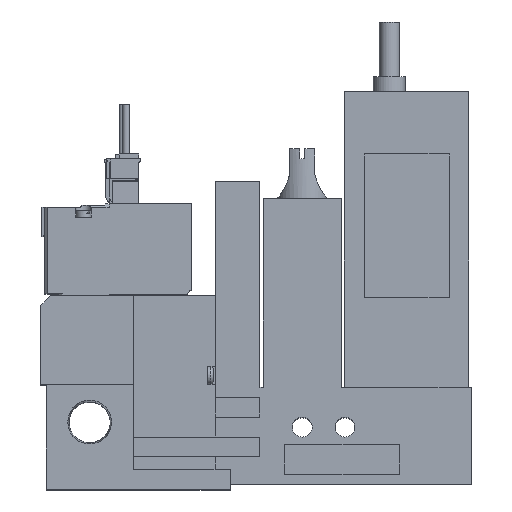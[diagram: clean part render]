
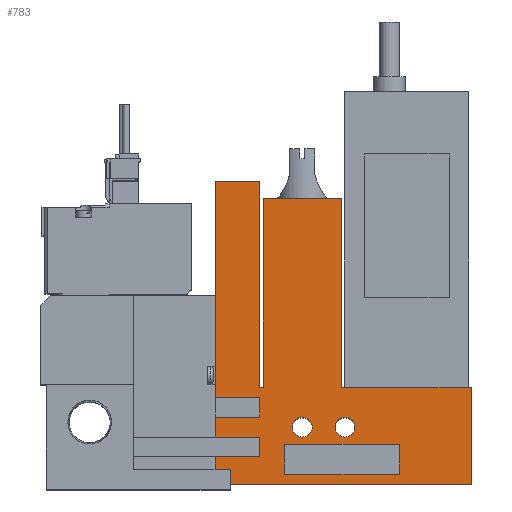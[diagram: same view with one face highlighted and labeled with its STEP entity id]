
A CAD part, top view. The second image highlights one B-rep face of the part: STEP entity #783.
In plain terms, the highlighted planar face has unit normal (0, 0, 1).
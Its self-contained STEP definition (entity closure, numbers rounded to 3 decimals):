
#783=ADVANCED_FACE('',(#1640,#1641,#1642,#1643),#1644,.T.);
#1640=FACE_OUTER_BOUND('',#2678,.T.);
#1641=FACE_BOUND('',#2679,.T.);
#1642=FACE_BOUND('',#2680,.T.);
#1643=FACE_BOUND('',#2681,.T.);
#1644=PLANE('',#2682);
#2678=EDGE_LOOP('',(#5737,#5738,#5739,#5740,#5741,#5742,#5743,#5744,#5745,#5746,#5747,#5748,#5749,#5750,#5751,#5752,#5753,#5754));
#2679=EDGE_LOOP('',(#5755,#5756,#5757,#5758));
#2680=EDGE_LOOP('',(#5759));
#2681=EDGE_LOOP('',(#5760));
#2682=AXIS2_PLACEMENT_3D('',#5761,#5762,#5763);
#5737=ORIENTED_EDGE('',*,*,#7269,.T.);
#5738=ORIENTED_EDGE('',*,*,#7371,.T.);
#5739=ORIENTED_EDGE('',*,*,#7367,.T.);
#5740=ORIENTED_EDGE('',*,*,#7369,.T.);
#5741=ORIENTED_EDGE('',*,*,#7229,.T.);
#5742=ORIENTED_EDGE('',*,*,#7412,.T.);
#5743=ORIENTED_EDGE('',*,*,#7286,.T.);
#5744=ORIENTED_EDGE('',*,*,#7410,.T.);
#5745=ORIENTED_EDGE('',*,*,#7226,.T.);
#5746=ORIENTED_EDGE('',*,*,#7416,.T.);
#5747=ORIENTED_EDGE('',*,*,#7402,.T.);
#5748=ORIENTED_EDGE('',*,*,#7399,.T.);
#5749=ORIENTED_EDGE('',*,*,#7240,.T.);
#5750=ORIENTED_EDGE('',*,*,#7397,.T.);
#5751=ORIENTED_EDGE('',*,*,#7251,.T.);
#5752=ORIENTED_EDGE('',*,*,#7395,.T.);
#5753=ORIENTED_EDGE('',*,*,#7392,.T.);
#5754=ORIENTED_EDGE('',*,*,#7389,.T.);
#5755=ORIENTED_EDGE('',*,*,#7382,.T.);
#5756=ORIENTED_EDGE('',*,*,#7383,.T.);
#5757=ORIENTED_EDGE('',*,*,#7378,.T.);
#5758=ORIENTED_EDGE('',*,*,#7380,.T.);
#5759=ORIENTED_EDGE('',*,*,#7357,.T.);
#5760=ORIENTED_EDGE('',*,*,#7355,.T.);
#5761=CARTESIAN_POINT('',(0.0,0.0,10.0));
#5762=DIRECTION('',(0.0,0.0,1.0));
#5763=DIRECTION('',(1.0,0.0,0.0));
#7226=EDGE_CURVE('',#8813,#8817,#8819,.T.);
#7229=EDGE_CURVE('',#8825,#8823,#8826,.T.);
#7240=EDGE_CURVE('',#8846,#8844,#8847,.T.);
#7251=EDGE_CURVE('',#8867,#8865,#8868,.T.);
#7269=EDGE_CURVE('',#8903,#8901,#8904,.T.);
#7286=EDGE_CURVE('',#8928,#8933,#8935,.T.);
#7355=EDGE_CURVE('',#9043,#9043,#9044,.T.);
#7357=EDGE_CURVE('',#9047,#9047,#9048,.T.);
#7367=EDGE_CURVE('',#9062,#9064,#9066,.T.);
#7369=EDGE_CURVE('',#9064,#8825,#9068,.T.);
#7371=EDGE_CURVE('',#8901,#9062,#9070,.T.);
#7378=EDGE_CURVE('',#9079,#9081,#9083,.T.);
#7380=EDGE_CURVE('',#9081,#9084,#9086,.T.);
#7382=EDGE_CURVE('',#9084,#9087,#9089,.T.);
#7383=EDGE_CURVE('',#9087,#9079,#9090,.T.);
#7389=EDGE_CURVE('',#9101,#8903,#9102,.T.);
#7392=EDGE_CURVE('',#9106,#9101,#9107,.T.);
#7395=EDGE_CURVE('',#8865,#9106,#9110,.T.);
#7397=EDGE_CURVE('',#8844,#8867,#9112,.T.);
#7399=EDGE_CURVE('',#9115,#8846,#9116,.T.);
#7402=EDGE_CURVE('',#9120,#9115,#9121,.T.);
#7410=EDGE_CURVE('',#8933,#8813,#9131,.T.);
#7412=EDGE_CURVE('',#8823,#8928,#9133,.T.);
#7416=EDGE_CURVE('',#8817,#9120,#9138,.T.);
#8813=VERTEX_POINT('',#11356);
#8817=VERTEX_POINT('',#11362);
#8819=LINE('',#11365,#11366);
#8823=VERTEX_POINT('',#11371);
#8825=VERTEX_POINT('',#11374);
#8826=LINE('',#11375,#11376);
#8844=VERTEX_POINT('',#11401);
#8846=VERTEX_POINT('',#11404);
#8847=LINE('',#11405,#11406);
#8865=VERTEX_POINT('',#11430);
#8867=VERTEX_POINT('',#11433);
#8868=LINE('',#11434,#11435);
#8901=VERTEX_POINT('',#11482);
#8903=VERTEX_POINT('',#11485);
#8904=LINE('',#11486,#11487);
#8928=VERTEX_POINT('',#11523);
#8933=VERTEX_POINT('',#11530);
#8935=LINE('',#11533,#11534);
#9043=VERTEX_POINT('',#11719);
#9044=CIRCLE('',#11720,2.0);
#9047=VERTEX_POINT('',#11723);
#9048=CIRCLE('',#11724,2.0);
#9062=VERTEX_POINT('',#11745);
#9064=VERTEX_POINT('',#11748);
#9066=LINE('',#11751,#11752);
#9068=LINE('',#11755,#11756);
#9070=LINE('',#11759,#11760);
#9079=VERTEX_POINT('',#11773);
#9081=VERTEX_POINT('',#11776);
#9083=LINE('',#11779,#11780);
#9084=VERTEX_POINT('',#11781);
#9086=LINE('',#11784,#11785);
#9087=VERTEX_POINT('',#11786);
#9089=LINE('',#11789,#11790);
#9090=LINE('',#11791,#11792);
#9101=VERTEX_POINT('',#11808);
#9102=LINE('',#11809,#11810);
#9106=VERTEX_POINT('',#11816);
#9107=LINE('',#11817,#11818);
#9110=LINE('',#11823,#11824);
#9112=LINE('',#11827,#11828);
#9115=VERTEX_POINT('',#11832);
#9116=LINE('',#11833,#11834);
#9120=VERTEX_POINT('',#11840);
#9121=LINE('',#11841,#11842);
#9131=LINE('',#11859,#11860);
#9133=LINE('',#11863,#11864);
#9138=LINE('',#11872,#11873);
#11356=CARTESIAN_POINT('',(35.1,5.5,10.0));
#11362=CARTESIAN_POINT('',(35.1,0.0,10.0));
#11365=CARTESIAN_POINT('',(35.1,0.0,10.0));
#11366=VECTOR('',#13354,1.0);
#11371=CARTESIAN_POINT('',(35.1,9.5,10.0));
#11374=CARTESIAN_POINT('',(35.1,13.5,10.0));
#11375=CARTESIAN_POINT('',(35.1,0.0,10.0));
#11376=VECTOR('',#13357,1.0);
#11401=CARTESIAN_POINT('',(60.45,57.5,10.0));
#11404=CARTESIAN_POINT('',(60.45,19.5,10.0));
#11405=CARTESIAN_POINT('',(60.45,19.5,10.0));
#11406=VECTOR('',#13372,1.0);
#11430=CARTESIAN_POINT('',(44.75,19.5,10.0));
#11433=CARTESIAN_POINT('',(44.75,57.5,10.0));
#11434=CARTESIAN_POINT('',(44.75,57.5,10.0));
#11435=VECTOR('',#13389,1.0);
#11482=CARTESIAN_POINT('',(35.1,17.5,10.0));
#11485=CARTESIAN_POINT('',(35.1,61.0,10.0));
#11486=CARTESIAN_POINT('',(35.1,61.0,10.0));
#11487=VECTOR('',#13411,1.0);
#11523=CARTESIAN_POINT('',(44.1,9.5,10.0));
#11530=CARTESIAN_POINT('',(44.1,5.5,10.0));
#11533=CARTESIAN_POINT('',(44.1,0.0,10.0));
#11534=VECTOR('',#13430,1.0);
#11719=CARTESIAN_POINT('',(63.2,11.5,10.0));
#11720=AXIS2_PLACEMENT_3D('',#13521,#13522,#13523);
#11723=CARTESIAN_POINT('',(54.6,11.5,10.0));
#11724=AXIS2_PLACEMENT_3D('',#13527,#13528,#13529);
#11745=CARTESIAN_POINT('',(44.1,17.5,10.0));
#11748=CARTESIAN_POINT('',(44.1,13.5,10.0));
#11751=CARTESIAN_POINT('',(44.1,0.0,10.0));
#11752=VECTOR('',#13539,1.0);
#11755=CARTESIAN_POINT('',(0.0,13.5,10.0));
#11756=VECTOR('',#13541,1.0);
#11759=CARTESIAN_POINT('',(0.0,17.5,10.0));
#11760=VECTOR('',#13543,1.0);
#11773=CARTESIAN_POINT('',(72.1,8.0,10.0));
#11776=CARTESIAN_POINT('',(72.1,2.0,10.0));
#11779=CARTESIAN_POINT('',(72.1,0.0,10.0));
#11780=VECTOR('',#13550,1.0);
#11781=CARTESIAN_POINT('',(49.1,2.0,10.0));
#11784=CARTESIAN_POINT('',(0.0,2.0,10.0));
#11785=VECTOR('',#13552,1.0);
#11786=CARTESIAN_POINT('',(49.1,8.0,10.0));
#11789=CARTESIAN_POINT('',(49.1,0.0,10.0));
#11790=VECTOR('',#13554,1.0);
#11791=CARTESIAN_POINT('',(0.0,8.0,10.0));
#11792=VECTOR('',#13555,1.0);
#11808=CARTESIAN_POINT('',(44.1,61.0,10.0));
#11809=CARTESIAN_POINT('',(44.1,61.0,10.0));
#11810=VECTOR('',#13561,1.0);
#11816=CARTESIAN_POINT('',(44.1,19.5,10.0));
#11817=CARTESIAN_POINT('',(44.1,19.5,10.0));
#11818=VECTOR('',#13564,1.0);
#11823=CARTESIAN_POINT('',(44.75,19.5,10.0));
#11824=VECTOR('',#13567,1.0);
#11827=CARTESIAN_POINT('',(60.45,57.5,10.0));
#11828=VECTOR('',#13569,1.0);
#11832=CARTESIAN_POINT('',(86.6,19.5,10.0));
#11833=CARTESIAN_POINT('',(86.6,19.5,10.0));
#11834=VECTOR('',#13571,1.0);
#11840=CARTESIAN_POINT('',(86.6,0.0,10.0));
#11841=CARTESIAN_POINT('',(86.6,0.0,10.0));
#11842=VECTOR('',#13574,1.0);
#11859=CARTESIAN_POINT('',(0.0,5.5,10.0));
#11860=VECTOR('',#13582,1.0);
#11863=CARTESIAN_POINT('',(0.0,9.5,10.0));
#11864=VECTOR('',#13584,1.0);
#11872=CARTESIAN_POINT('',(18.6,0.0,10.0));
#11873=VECTOR('',#13588,1.0);
#13354=DIRECTION('',(0.0,-1.0,0.0));
#13357=DIRECTION('',(0.0,-1.0,0.0));
#13372=DIRECTION('',(0.0,1.0,0.0));
#13389=DIRECTION('',(0.0,-1.0,0.0));
#13411=DIRECTION('',(0.0,-1.0,0.0));
#13430=DIRECTION('',(0.0,-1.0,0.0));
#13521=CARTESIAN_POINT('',(61.2,11.5,10.0));
#13522=DIRECTION('',(0.0,0.0,-1.0));
#13523=DIRECTION('',(1.0,0.0,0.0));
#13527=CARTESIAN_POINT('',(52.6,11.5,10.0));
#13528=DIRECTION('',(0.0,0.0,-1.0));
#13529=DIRECTION('',(1.0,0.0,0.0));
#13539=DIRECTION('',(0.0,-1.0,0.0));
#13541=DIRECTION('',(-1.0,0.0,0.0));
#13543=DIRECTION('',(1.0,0.0,0.0));
#13550=DIRECTION('',(0.0,-1.0,0.0));
#13552=DIRECTION('',(-1.0,0.0,0.0));
#13554=DIRECTION('',(0.0,1.0,0.0));
#13555=DIRECTION('',(1.0,0.0,0.0));
#13561=DIRECTION('',(-1.0,0.0,0.0));
#13564=DIRECTION('',(0.0,1.0,0.0));
#13567=DIRECTION('',(-1.0,0.0,0.0));
#13569=DIRECTION('',(-1.0,0.0,0.0));
#13571=DIRECTION('',(-1.0,0.0,0.0));
#13574=DIRECTION('',(0.0,1.0,0.0));
#13582=DIRECTION('',(-1.0,0.0,0.0));
#13584=DIRECTION('',(1.0,0.0,0.0));
#13588=DIRECTION('',(1.0,0.0,0.0));
